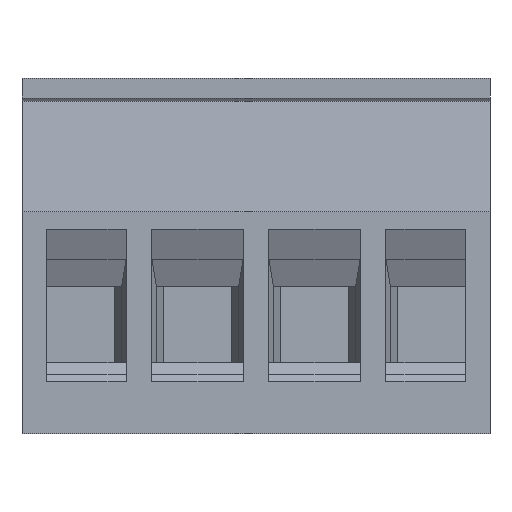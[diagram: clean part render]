
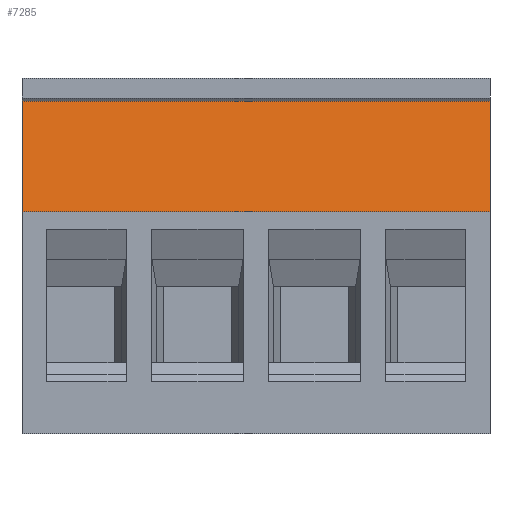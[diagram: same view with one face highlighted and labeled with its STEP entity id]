
A CAD part, front view. The second image highlights one B-rep face of the part: STEP entity #7285.
In plain terms, the highlighted planar face has unit normal (0, -0.985, 0.174).
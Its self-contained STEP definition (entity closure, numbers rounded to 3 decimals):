
#32 = PLANE('',#33);
#33 = AXIS2_PLACEMENT_3D('',#34,#35,#36);
#34 = CARTESIAN_POINT('',(0.,0.,0.));
#35 = DIRECTION('',(1.,0.,0.));
#36 = DIRECTION('',(0.,0.,-1.));
#282 = VERTEX_POINT('',#283);
#283 = CARTESIAN_POINT('',(0.,-4.31,5.573));
#297 = PLANE('',#298);
#298 = AXIS2_PLACEMENT_3D('',#299,#300,#301);
#299 = CARTESIAN_POINT('',(0.,-4.65,5.7));
#300 = DIRECTION('',(0.,-0.35,-0.937));
#301 = DIRECTION('',(0.,0.937,-0.35));
#309 = EDGE_CURVE('',#282,#310,#312,.T.);
#310 = VERTEX_POINT('',#311);
#311 = CARTESIAN_POINT('',(0.,-5.143,0.85));
#312 = SURFACE_CURVE('',#313,(#317,#324),.PCURVE_S1.);
#313 = LINE('',#314,#315);
#314 = CARTESIAN_POINT('',(0.,-4.31,5.573));
#315 = VECTOR('',#316,1.);
#316 = DIRECTION('',(0.,-0.174,-0.985));
#317 = PCURVE('',#32,#318);
#318 = DEFINITIONAL_REPRESENTATION('',(#319),#323);
#319 = LINE('',#320,#321);
#320 = CARTESIAN_POINT('',(-5.573,-4.31));
#321 = VECTOR('',#322,1.);
#322 = DIRECTION('',(0.985,-0.174));
#323 = ( GEOMETRIC_REPRESENTATION_CONTEXT(2) 
PARAMETRIC_REPRESENTATION_CONTEXT() REPRESENTATION_CONTEXT('2D SPACE',''
  ) );
#324 = PCURVE('',#325,#330);
#325 = PLANE('',#326);
#326 = AXIS2_PLACEMENT_3D('',#327,#328,#329);
#327 = CARTESIAN_POINT('',(0.,-4.31,5.573));
#328 = DIRECTION('',(0.,-0.985,0.174));
#329 = DIRECTION('',(0.,-0.174,-0.985));
#330 = DEFINITIONAL_REPRESENTATION('',(#331),#335);
#331 = LINE('',#332,#333);
#332 = CARTESIAN_POINT('',(0.,0.));
#333 = VECTOR('',#334,1.);
#334 = DIRECTION('',(1.,0.));
#335 = ( GEOMETRIC_REPRESENTATION_CONTEXT(2) 
PARAMETRIC_REPRESENTATION_CONTEXT() REPRESENTATION_CONTEXT('2D SPACE',''
  ) );
#353 = PLANE('',#354);
#354 = AXIS2_PLACEMENT_3D('',#355,#356,#357);
#355 = CARTESIAN_POINT('',(0.,-5.143,0.85));
#356 = DIRECTION('',(0.,0.,1.));
#357 = DIRECTION('',(0.,-1.,0.));
#575 = PLANE('',#576);
#576 = AXIS2_PLACEMENT_3D('',#577,#578,#579);
#577 = CARTESIAN_POINT('',(20.,0.,0.));
#578 = DIRECTION('',(1.,0.,0.));
#579 = DIRECTION('',(0.,0.,-1.));
#7240 = EDGE_CURVE('',#310,#7241,#7243,.T.);
#7241 = VERTEX_POINT('',#7242);
#7242 = CARTESIAN_POINT('',(20.,-5.143,0.85));
#7243 = SURFACE_CURVE('',#7244,(#7248,#7255),.PCURVE_S1.);
#7244 = LINE('',#7245,#7246);
#7245 = CARTESIAN_POINT('',(0.,-5.143,0.85));
#7246 = VECTOR('',#7247,1.);
#7247 = DIRECTION('',(1.,0.,0.));
#7248 = PCURVE('',#353,#7249);
#7249 = DEFINITIONAL_REPRESENTATION('',(#7250),#7254);
#7250 = LINE('',#7251,#7252);
#7251 = CARTESIAN_POINT('',(0.,0.));
#7252 = VECTOR('',#7253,1.);
#7253 = DIRECTION('',(0.,1.));
#7254 = ( GEOMETRIC_REPRESENTATION_CONTEXT(2) 
PARAMETRIC_REPRESENTATION_CONTEXT() REPRESENTATION_CONTEXT('2D SPACE',''
  ) );
#7255 = PCURVE('',#325,#7256);
#7256 = DEFINITIONAL_REPRESENTATION('',(#7257),#7261);
#7257 = LINE('',#7258,#7259);
#7258 = CARTESIAN_POINT('',(4.796,0.));
#7259 = VECTOR('',#7260,1.);
#7260 = DIRECTION('',(0.,1.));
#7261 = ( GEOMETRIC_REPRESENTATION_CONTEXT(2) 
PARAMETRIC_REPRESENTATION_CONTEXT() REPRESENTATION_CONTEXT('2D SPACE',''
  ) );
#7285 = ADVANCED_FACE('',(#7286),#325,.T.);
#7286 = FACE_BOUND('',#7287,.F.);
#7287 = EDGE_LOOP('',(#7288,#7311,#7332,#7333));
#7288 = ORIENTED_EDGE('',*,*,#7289,.T.);
#7289 = EDGE_CURVE('',#282,#7290,#7292,.T.);
#7290 = VERTEX_POINT('',#7291);
#7291 = CARTESIAN_POINT('',(20.,-4.31,5.573));
#7292 = SURFACE_CURVE('',#7293,(#7297,#7304),.PCURVE_S1.);
#7293 = LINE('',#7294,#7295);
#7294 = CARTESIAN_POINT('',(0.,-4.31,5.573));
#7295 = VECTOR('',#7296,1.);
#7296 = DIRECTION('',(1.,0.,0.));
#7297 = PCURVE('',#325,#7298);
#7298 = DEFINITIONAL_REPRESENTATION('',(#7299),#7303);
#7299 = LINE('',#7300,#7301);
#7300 = CARTESIAN_POINT('',(0.,0.));
#7301 = VECTOR('',#7302,1.);
#7302 = DIRECTION('',(0.,1.));
#7303 = ( GEOMETRIC_REPRESENTATION_CONTEXT(2) 
PARAMETRIC_REPRESENTATION_CONTEXT() REPRESENTATION_CONTEXT('2D SPACE',''
  ) );
#7304 = PCURVE('',#297,#7305);
#7305 = DEFINITIONAL_REPRESENTATION('',(#7306),#7310);
#7306 = LINE('',#7307,#7308);
#7307 = CARTESIAN_POINT('',(0.363,0.));
#7308 = VECTOR('',#7309,1.);
#7309 = DIRECTION('',(0.,1.));
#7310 = ( GEOMETRIC_REPRESENTATION_CONTEXT(2) 
PARAMETRIC_REPRESENTATION_CONTEXT() REPRESENTATION_CONTEXT('2D SPACE',''
  ) );
#7311 = ORIENTED_EDGE('',*,*,#7312,.T.);
#7312 = EDGE_CURVE('',#7290,#7241,#7313,.T.);
#7313 = SURFACE_CURVE('',#7314,(#7318,#7325),.PCURVE_S1.);
#7314 = LINE('',#7315,#7316);
#7315 = CARTESIAN_POINT('',(20.,-4.31,5.573));
#7316 = VECTOR('',#7317,1.);
#7317 = DIRECTION('',(0.,-0.174,-0.985));
#7318 = PCURVE('',#325,#7319);
#7319 = DEFINITIONAL_REPRESENTATION('',(#7320),#7324);
#7320 = LINE('',#7321,#7322);
#7321 = CARTESIAN_POINT('',(0.,20.));
#7322 = VECTOR('',#7323,1.);
#7323 = DIRECTION('',(1.,0.));
#7324 = ( GEOMETRIC_REPRESENTATION_CONTEXT(2) 
PARAMETRIC_REPRESENTATION_CONTEXT() REPRESENTATION_CONTEXT('2D SPACE',''
  ) );
#7325 = PCURVE('',#575,#7326);
#7326 = DEFINITIONAL_REPRESENTATION('',(#7327),#7331);
#7327 = LINE('',#7328,#7329);
#7328 = CARTESIAN_POINT('',(-5.573,-4.31));
#7329 = VECTOR('',#7330,1.);
#7330 = DIRECTION('',(0.985,-0.174));
#7331 = ( GEOMETRIC_REPRESENTATION_CONTEXT(2) 
PARAMETRIC_REPRESENTATION_CONTEXT() REPRESENTATION_CONTEXT('2D SPACE',''
  ) );
#7332 = ORIENTED_EDGE('',*,*,#7240,.F.);
#7333 = ORIENTED_EDGE('',*,*,#309,.F.);
